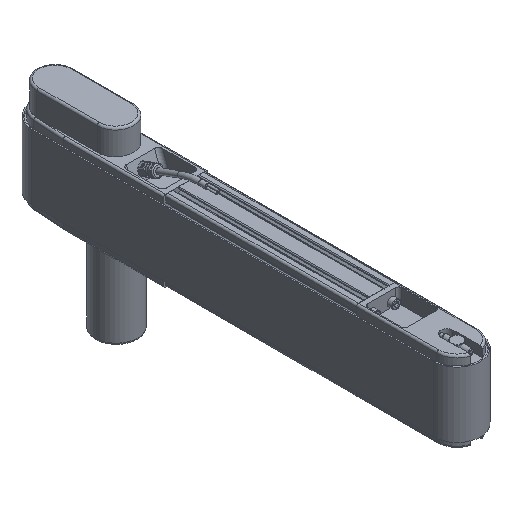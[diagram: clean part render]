
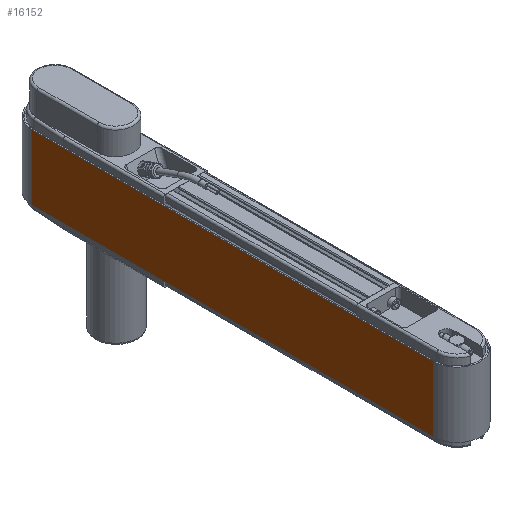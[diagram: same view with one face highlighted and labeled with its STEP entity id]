
A CAD part, isometric view. The second image highlights one B-rep face of the part: STEP entity #16152.
In plain terms, the highlighted planar face has unit normal (-1, 0, 0).
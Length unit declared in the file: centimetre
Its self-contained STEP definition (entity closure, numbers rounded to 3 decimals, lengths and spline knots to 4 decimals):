
#507=PLANE('',#17216);
#1168=FACE_OUTER_BOUND('',#2059,.T.);
#2059=EDGE_LOOP('',(#10920,#10921,#10922,#10923));
#3057=LINE('',#24013,#4316);
#3060=LINE('',#24022,#4319);
#3063=LINE('',#24030,#4322);
#3064=LINE('',#24032,#4323);
#4316=VECTOR('',#19327,1.);
#4319=VECTOR('',#19336,1.);
#4322=VECTOR('',#19345,1.);
#4323=VECTOR('',#19348,1.);
#6469=VERTEX_POINT('',#24009);
#6471=VERTEX_POINT('',#24012);
#6473=VERTEX_POINT('',#24018);
#6476=VERTEX_POINT('',#24028);
#8189=EDGE_CURVE('',#6471,#6469,#3057,.T.);
#8194=EDGE_CURVE('',#6473,#6471,#3060,.T.);
#8198=EDGE_CURVE('',#6469,#6476,#3063,.T.);
#8199=EDGE_CURVE('',#6476,#6473,#3064,.T.);
#10920=ORIENTED_EDGE('',*,*,#8199,.T.);
#10921=ORIENTED_EDGE('',*,*,#8194,.T.);
#10922=ORIENTED_EDGE('',*,*,#8189,.T.);
#10923=ORIENTED_EDGE('',*,*,#8198,.T.);
#16152=ADVANCED_FACE('',(#1168),#507,.T.);
#17216=AXIS2_PLACEMENT_3D('',#24031,#19346,#19347);
#19327=DIRECTION('',(0.,-1.,0.));
#19336=DIRECTION('',(0.,0.,-1.));
#19345=DIRECTION('',(0.,0.,1.));
#19346=DIRECTION('center_axis',(-1.,0.,0.));
#19347=DIRECTION('ref_axis',(0.,0.,
1.));
#19348=DIRECTION('',(0.,1.,0.));
#24009=CARTESIAN_POINT('',(-2.33,-27.,-3.25));
#24012=CARTESIAN_POINT('',(-2.33,13.,-3.25));
#24013=CARTESIAN_POINT('',(-2.33,-27.,-3.25));
#24018=CARTESIAN_POINT('',(-2.33,13.,3.25));
#24022=CARTESIAN_POINT('',(-2.33,13.,0.));
#24028=CARTESIAN_POINT('',(-2.33,-27.,3.25));
#24030=CARTESIAN_POINT('',(-2.33,-27.,0.));
#24031=CARTESIAN_POINT('Origin',(-2.33,-27.,0.));
#24032=CARTESIAN_POINT('',(-2.33,-27.,3.25));
